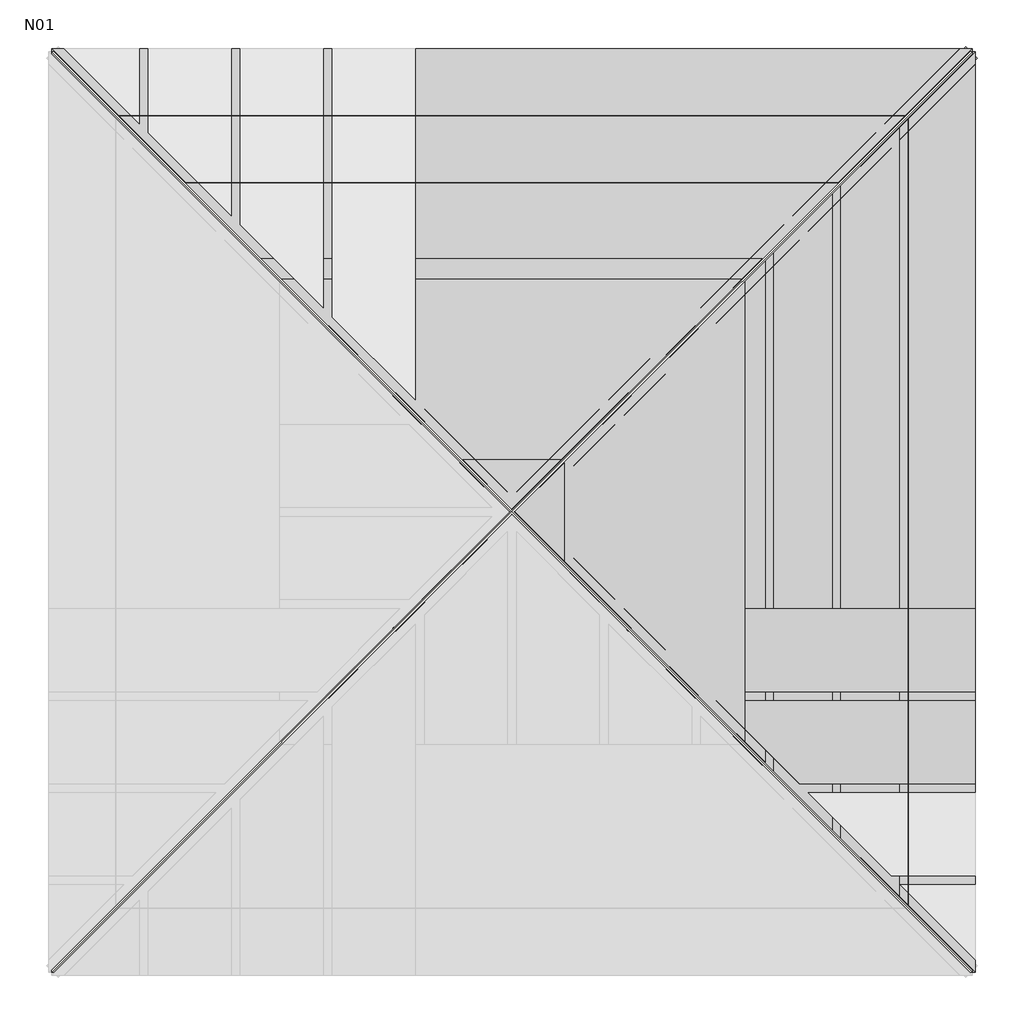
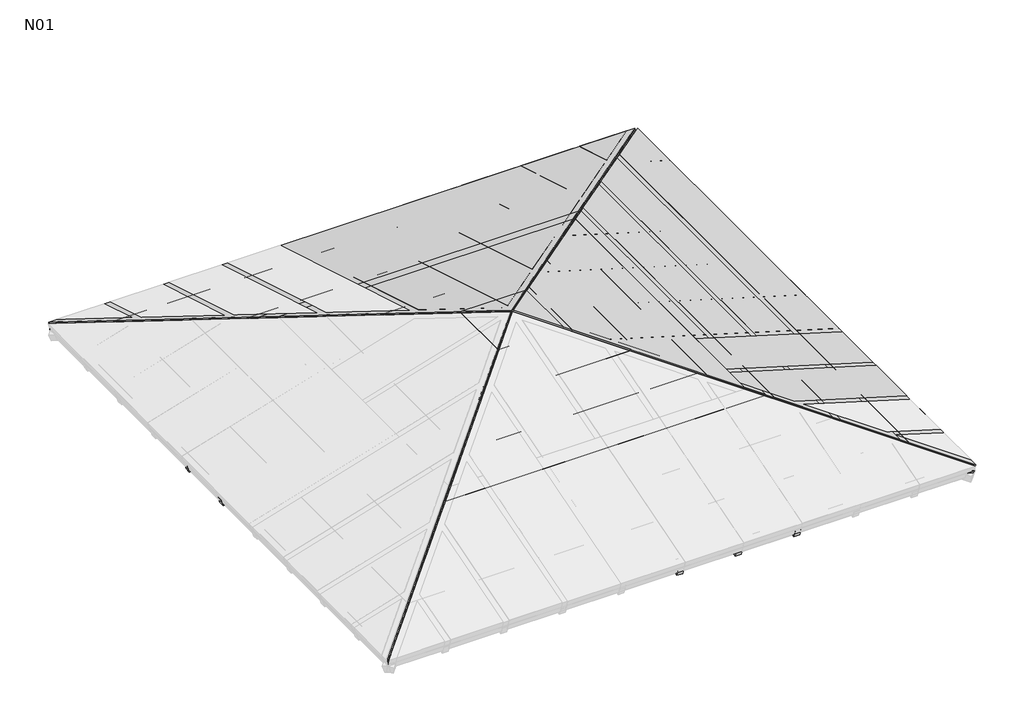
# One storey, part 2 of 2: 52 members, 38 plates, 1 roof.
"""IFC4 building model written with IfcOpenShell, lengths in millimetres."""

from ifc_helpers import new_model, si_unit, origin, place, context, project, spatial, faceted_brep, transform, mapped, element, save
from components import rectangular_mullion_2x5_cm_e4b01166, rectangular_mullion_2x5_cm_c243ac4e, rectangular_mullion_2x5_cm_e88f7a66, rectangular_mullion_2x5_cm_7033cc24, rectangular_mullion_2x5_cm_fc4e4f32, rectangular_mullion_2x5_cm_76aa6b56, rectangular_mullion_2x5_cm_8f59c52d, rectangular_mullion_6x12_cm_d0224d13, rectangular_mullion_6x5_cm_fcdd8aea, rectangular_mullion_6x5_cm_35c0ddda, rectangular_mullion_6x5_cm_7994da54, rectangular_mullion_6x5_cm_523ccd75, rectangular_mullion_6x5_cm_38436df2, rectangular_mullion_6x5_cm_68429f73, rectangular_mullion_6x5_cm_cfa57f92, rectangular_mullion_6x5_cm_42f8e326, rectangular_mullion_6x5_cm_ff4e2c6f, rectangular_mullion_6x5_cm_2a4f21b8, rectangular_mullion_6x5_cm_8417e023, rectangular_mullion_6x5_cm_048b1182, rectangular_mullion_6x5_cm_d8a74bb4, empty_system_panel_empty_65b771b1, empty_system_panel_empty_b0d35594, empty_system_panel_empty_8b1a6939, empty_system_panel_empty_328e3ff9, empty_system_panel_empty_d3f17187, empty_system_panel_empty_ec251fb9, empty_system_panel_empty_eb190688, empty_system_panel_empty_1f9a8fa0, empty_system_panel_empty_c79e2d26, empty_system_panel_empty_f5961f3d, empty_system_panel_empty_43ef93b5, empty_system_panel_empty_011029aa, empty_system_panel_empty_e1ce71c8, empty_system_panel_empty_26c64da4, empty_system_panel_empty_65730d84, empty_system_panel_empty_01459a41, empty_system_panel_empty_852c3224, empty_system_panel_empty_f13930bf, empty_system_panel_empty_531248cf

model = new_model("IFC4")

# Units and contexts
model_context = context("Model", 3, world=origin())
ifc_project = project(units=[si_unit("LENGTHUNIT", "METRE", prefix="MILLI")], contexts=[model_context])

# Site, building, storey
site = spatial("IfcSite", under=ifc_project)
building = spatial("IfcBuilding", under=site)
storey = spatial("IfcBuildingStorey", under=building, Name="N01", Elevation=3000.0)

# Members
placement = place(None, origin())
rectangular_mullion_2x5_cm_shape = rectangular_mullion_2x5_cm_e4b01166(model_context)
element("IfcMember", 1, ObjectType="Rectangular Mullion : 2x5 cm", at=placement, inside=storey, context=model_context, shape_type="MappedRepresentation", body=[
    mapped(rectangular_mullion_2x5_cm_shape, transform((7159.310987, 3941.0614525, 3000.0), x_axis=(0.9578262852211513, 0.0, -0.2873478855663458), y_axis=(-0.2873478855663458, 0.0, -0.9578262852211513), z_axis=(0.0, 1.0, 0.0))),
])
rectangular_mullion_2x5_cm_2_shape = rectangular_mullion_2x5_cm_c243ac4e(model_context)
element("IfcMember", 2, ObjectType="Rectangular Mullion : 2x5 cm", at=placement, inside=storey, context=model_context, shape_type="MappedRepresentation", body=[
    mapped(rectangular_mullion_2x5_cm_2_shape, transform((6795.3369986, 3577.0874641, 3109.1921965), x_axis=(0.0, -0.9578262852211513, 0.2873478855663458), y_axis=(0.0, -0.2873478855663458, -0.9578262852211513), z_axis=(1.0, 0.0, 0.0))),
])
rectangular_mullion_2x5_cm_3_shape = rectangular_mullion_2x5_cm_e88f7a66(model_context)
element("IfcMember", 3, ObjectType="Rectangular Mullion : 2x5 cm", at=placement, inside=storey, context=model_context, shape_type="MappedRepresentation", body=[
    mapped(rectangular_mullion_2x5_cm_3_shape, transform((6431.3630102, 3213.1134757, 3218.384393), x_axis=(0.0, -0.9578262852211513, 0.2873478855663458), y_axis=(0.0, -0.2873478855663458, -0.9578262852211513), z_axis=(1.0, 0.0, 0.0))),
])
rectangular_mullion_2x5_cm_4_shape = rectangular_mullion_2x5_cm_7033cc24(model_context)
element("IfcMember", 4, ObjectType="Rectangular Mullion : 2x5 cm", at=placement, inside=storey, context=model_context, shape_type="MappedRepresentation", body=[
    mapped(rectangular_mullion_2x5_cm_4_shape, transform((6067.3890218, 32.9834177, 3327.5765895), x_axis=(-0.9578262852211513, 0.0, 0.2873478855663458), y_axis=(-0.2873478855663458, 0.0, -0.9578262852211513), z_axis=(0.0, -1.0, 0.0))),
])
element("IfcMember", 5, ObjectType="Rectangular Mullion : 2x5 cm", at=placement, inside=storey, context=model_context, shape_type="MappedRepresentation", body=[
    mapped(rectangular_mullion_2x5_cm_4_shape, transform((6067.3890218, 2849.1394874, 3327.5765895), x_axis=(0.0, -0.9578262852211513, 0.2873478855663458), y_axis=(0.0, -0.2873478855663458, -0.9578262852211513), z_axis=(1.0, 0.0, 0.0))),
])
rectangular_mullion_2x5_cm_5_shape = rectangular_mullion_2x5_cm_fc4e4f32(model_context)
element("IfcMember", 6, ObjectType="Rectangular Mullion : 2x5 cm", at=placement, inside=storey, context=model_context, shape_type="MappedRepresentation", body=[
    mapped(rectangular_mullion_2x5_cm_5_shape, transform((5703.4150334, 396.9574061, 3436.7687861), x_axis=(-0.9578262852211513, 0.0, 0.2873478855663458), y_axis=(-0.2873478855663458, 0.0, -0.9578262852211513), z_axis=(0.0, -1.0, 0.0))),
])
element("IfcMember", 7, ObjectType="Rectangular Mullion : 2x5 cm", at=placement, inside=storey, context=model_context, shape_type="MappedRepresentation", body=[
    mapped(rectangular_mullion_2x5_cm_5_shape, transform((5703.4150334, 2485.165499, 3436.7687861), x_axis=(0.0, -0.9578262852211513, 0.2873478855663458), y_axis=(0.0, -0.2873478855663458, -0.9578262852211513), z_axis=(1.0, 0.0, 0.0))),
])
rectangular_mullion_2x5_cm_6_shape = rectangular_mullion_2x5_cm_76aa6b56(model_context)
element("IfcMember", 8, ObjectType="Rectangular Mullion : 2x5 cm", at=placement, inside=storey, context=model_context, shape_type="MappedRepresentation", body=[
    mapped(rectangular_mullion_2x5_cm_6_shape, transform((5339.441045, 760.9313944, 3545.9609826), x_axis=(-0.9578262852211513, 0.0, 0.2873478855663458), y_axis=(-0.2873478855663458, 0.0, -0.9578262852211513), z_axis=(0.0, -1.0, 0.0))),
])
element("IfcMember", 9, ObjectType="Rectangular Mullion : 2x5 cm", at=placement, inside=storey, context=model_context, shape_type="MappedRepresentation", body=[
    mapped(rectangular_mullion_2x5_cm_6_shape, transform((5339.441045, 2121.1915106, 3545.9609826), x_axis=(0.0, -0.9578262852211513, 0.2873478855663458), y_axis=(0.0, -0.2873478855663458, -0.9578262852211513), z_axis=(1.0, 0.0, 0.0))),
])
rectangular_mullion_2x5_cm_7_shape = rectangular_mullion_2x5_cm_8f59c52d(model_context)
element("IfcMember", 10, ObjectType="Rectangular Mullion : 2x5 cm", at=placement, inside=storey, context=model_context, shape_type="MappedRepresentation", body=[
    mapped(rectangular_mullion_2x5_cm_7_shape, transform((4975.4670567, 1124.9053828, 3655.1531791), x_axis=(-0.9578262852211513, 0.0, 0.2873478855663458), y_axis=(-0.2873478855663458, 0.0, -0.9578262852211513), z_axis=(0.0, -1.0, 0.0))),
])
element("IfcMember", 11, ObjectType="Rectangular Mullion : 2x5 cm", at=placement, inside=storey, context=model_context, shape_type="MappedRepresentation", body=[
    mapped(rectangular_mullion_2x5_cm_7_shape, transform((4343.1549173, 1124.9053828, 3655.1531791), x_axis=(0.0, 0.9578262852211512, 0.287347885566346), y_axis=(0.0, 0.287347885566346, -0.9578262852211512), z_axis=(-1.0, 0.0, 0.0))),
])
element("IfcMember", 12, ObjectType="Rectangular Mullion : 2x5 cm", at=placement, inside=storey, context=model_context, shape_type="MappedRepresentation", body=[
    mapped(rectangular_mullion_2x5_cm_7_shape, transform((4343.1549173, 1757.2175222, 3655.1531791), x_axis=(0.9578262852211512, 0.0, 0.287347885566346), y_axis=(0.287347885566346, 0.0, -0.9578262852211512), z_axis=(0.0, 1.0, 0.0))),
])
element("IfcMember", 13, ObjectType="Rectangular Mullion : 2x5 cm", at=placement, inside=storey, context=model_context, shape_type="MappedRepresentation", body=[
    mapped(rectangular_mullion_2x5_cm_7_shape, transform((4975.4670567, 1757.2175222, 3655.1531791), x_axis=(0.0, -0.9578262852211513, 0.2873478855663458), y_axis=(0.0, -0.2873478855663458, -0.9578262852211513), z_axis=(1.0, 0.0, 0.0))),
])
rectangular_mullion_6x12_cm_shape = rectangular_mullion_6x12_cm_d0224d13(model_context)
element("IfcMember", 14, ObjectType="Rectangular Mullion : 6x12 cm", at=placement, inside=storey, context=model_context, shape_type="MappedRepresentation", body=[
    mapped(rectangular_mullion_6x12_cm_shape, transform((5909.310987, 191.0614525, 3375.0), x_axis=(-0.9578262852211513, 0.0, 0.2873478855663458), y_axis=(-0.2873478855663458, 0.0, -0.9578262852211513), z_axis=(0.0, -1.0, 0.0))),
])
element("IfcMember", 15, ObjectType="Rectangular Mullion : 6x12 cm", at=placement, inside=storey, context=model_context, shape_type="MappedRepresentation", body=[
    mapped(rectangular_mullion_6x12_cm_shape, transform((5909.310987, 2691.0614525, 3375.0), x_axis=(0.0, -0.9578262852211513, 0.2873478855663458), y_axis=(0.0, -0.2873478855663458, -0.9578262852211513), z_axis=(1.0, 0.0, 0.0))),
])
rectangular_mullion_6x5_cm_shape = rectangular_mullion_6x5_cm_fcdd8aea(model_context)
element("IfcMember", 16, ObjectType="Rectangular Mullion : 6x5 cm", at=placement, inside=storey, context=model_context, shape_type="MappedRepresentation", body=[
    mapped(rectangular_mullion_6x5_cm_shape, transform((6659.3109867, 3441.0614523, 3150.0000001), x_axis=(-1.0, 0.0, 0.0), y_axis=(0.0, -0.287347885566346, -0.9578262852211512), z_axis=(0.0, -0.9578262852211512, 0.287347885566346))),
])
rectangular_mullion_6x5_cm_2_shape = rectangular_mullion_6x5_cm_35c0ddda(model_context)
element("IfcMember", 17, ObjectType="Rectangular Mullion : 6x5 cm", at=placement, inside=storey, context=model_context, shape_type="MappedRepresentation", body=[
    mapped(rectangular_mullion_6x5_cm_2_shape, transform((6159.3109868, 2941.0614523, 3300.0000001), x_axis=(-1.0, 0.0, 0.0), y_axis=(0.0, -0.2873478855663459, -0.9578262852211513), z_axis=(0.0, -0.9578262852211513, 0.2873478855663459))),
])
rectangular_mullion_6x5_cm_3_shape = rectangular_mullion_6x5_cm_7994da54(model_context)
element("IfcMember", 18, ObjectType="Rectangular Mullion : 6x5 cm", at=placement, inside=storey, context=model_context, shape_type="MappedRepresentation", body=[
    mapped(rectangular_mullion_6x5_cm_3_shape, transform((5659.3109868, 441.0614526, 3450.0), x_axis=(0.0, 1.0, 0.0), y_axis=(-0.2873478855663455, 0.0, -0.9578262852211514), z_axis=(-0.9578262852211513, 0.0, 0.28734788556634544))),
])
element("IfcMember", 19, ObjectType="Rectangular Mullion : 6x5 cm", at=placement, inside=storey, context=model_context, shape_type="MappedRepresentation", body=[
    mapped(rectangular_mullion_6x5_cm_3_shape, transform((5659.3109868, 2441.0614524, 3450.0), x_axis=(-1.0, 0.0, 0.0), y_axis=(0.0, -0.2873478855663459, -0.9578262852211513), z_axis=(0.0, -0.9578262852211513, 0.2873478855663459))),
])
rectangular_mullion_6x5_cm_4_shape = rectangular_mullion_6x5_cm_523ccd75(model_context)
element("IfcMember", 20, ObjectType="Rectangular Mullion : 6x5 cm", at=placement, inside=storey, context=model_context, shape_type="MappedRepresentation", body=[
    mapped(rectangular_mullion_6x5_cm_4_shape, transform((5159.3109869, 941.0614526, 3600.0), x_axis=(0.0, 1.0, 0.0), y_axis=(-0.2873478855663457, 0.0, -0.9578262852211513), z_axis=(-0.9578262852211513, 0.0, 0.2873478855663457))),
])
element("IfcMember", 21, ObjectType="Rectangular Mullion : 6x5 cm", at=placement, inside=storey, context=model_context, shape_type="MappedRepresentation", body=[
    mapped(rectangular_mullion_6x5_cm_4_shape, transform((4159.310987, 1941.0614525, 3600.0), x_axis=(0.0, -1.0, 0.0), y_axis=(0.287347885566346, 0.0, -0.9578262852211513), z_axis=(0.9578262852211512, 0.0, 0.28734788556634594))),
])
element("IfcMember", 22, ObjectType="Rectangular Mullion : 6x5 cm", at=placement, inside=storey, context=model_context, shape_type="MappedRepresentation", body=[
    mapped(rectangular_mullion_6x5_cm_4_shape, transform((5159.3109869, 1941.0614525, 3600.0), x_axis=(-1.0, 0.0, 0.0), y_axis=(0.0, -0.28734788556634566, -0.9578262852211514), z_axis=(0.0, -0.9578262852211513, 0.2873478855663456))),
])
rectangular_mullion_6x5_cm_5_shape = rectangular_mullion_6x5_cm_38436df2(model_context)
element("IfcMember", 23, ObjectType="Rectangular Mullion : 6x5 cm", at=placement, inside=storey, context=model_context, shape_type="MappedRepresentation", body=[
    mapped(rectangular_mullion_6x5_cm_5_shape, transform((4659.310987, 1441.0614525, 3750.0), x_axis=(0.0, 1.0, 0.0), y_axis=(-0.2873478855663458, 0.0, -0.9578262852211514), z_axis=(-0.9578262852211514, 0.0, 0.2873478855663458))),
])
element("IfcMember", 24, ObjectType="Rectangular Mullion : 6x5 cm", at=placement, inside=storey, context=model_context, shape_type="MappedRepresentation", body=[
    mapped(rectangular_mullion_6x5_cm_5_shape, transform((4659.310987, 1441.0614525, 3750.0), x_axis=(0.0, -1.0, 0.0), y_axis=(0.287347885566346, 0.0, -0.9578262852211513), z_axis=(0.9578262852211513, 0.0, 0.287347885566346))),
])
element("IfcMember", 25, ObjectType="Rectangular Mullion : 6x5 cm", at=placement, inside=storey, context=model_context, shape_type="MappedRepresentation", body=[
    mapped(rectangular_mullion_6x5_cm_5_shape, transform((4659.310987, 1441.0614525, 3750.0), x_axis=(-1.0, 0.0, 0.0), y_axis=(0.0, -0.28734788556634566, -0.9578262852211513), z_axis=(0.0, -0.9578262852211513, 0.28734788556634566))),
])
rectangular_mullion_6x5_cm_6_shape = rectangular_mullion_6x5_cm_68429f73(model_context)
element("IfcMember", 26, ObjectType="Rectangular Mullion : 6x5 cm", at=placement, inside=storey, context=model_context, shape_type="MappedRepresentation", body=[
    mapped(rectangular_mullion_6x5_cm_6_shape, transform((5159.3109869, 1941.0614525, 3600.0), x_axis=(0.0, 1.0, 0.0), y_axis=(-0.2873478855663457, 0.0, -0.9578262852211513), z_axis=(-0.9578262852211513, 0.0, 0.2873478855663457))),
])
element("IfcMember", 27, ObjectType="Rectangular Mullion : 6x5 cm", at=placement, inside=storey, context=model_context, shape_type="MappedRepresentation", body=[
    mapped(rectangular_mullion_6x5_cm_6_shape, transform((5159.3109869, 941.0614526, 3600.0), x_axis=(1.0, 0.0, 0.0), y_axis=(0.0, 0.28734788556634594, -0.9578262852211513), z_axis=(0.0, 0.9578262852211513, 0.28734788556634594))),
])
element("IfcMember", 28, ObjectType="Rectangular Mullion : 6x5 cm", at=placement, inside=storey, context=model_context, shape_type="MappedRepresentation", body=[
    mapped(rectangular_mullion_6x5_cm_6_shape, transform((4159.310987, 1941.0614525, 3600.0), x_axis=(-1.0, 0.0, 0.0), y_axis=(0.0, -0.2873478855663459, -0.9578262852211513), z_axis=(0.0, -0.9578262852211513, 0.2873478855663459))),
])
rectangular_mullion_6x5_cm_7_shape = rectangular_mullion_6x5_cm_cfa57f92(model_context)
element("IfcMember", 29, ObjectType="Rectangular Mullion : 6x5 cm", at=placement, inside=storey, context=model_context, shape_type="MappedRepresentation", body=[
    mapped(rectangular_mullion_6x5_cm_7_shape, transform((5659.3109868, 2441.0614524, 3450.0), x_axis=(0.0, 1.0, 0.0), y_axis=(-0.2873478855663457, 0.0, -0.9578262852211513), z_axis=(-0.9578262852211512, 0.0, 0.28734788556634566))),
])
element("IfcMember", 30, ObjectType="Rectangular Mullion : 6x5 cm", at=placement, inside=storey, context=model_context, shape_type="MappedRepresentation", body=[
    mapped(rectangular_mullion_6x5_cm_7_shape, transform((5659.3109868, 441.0614526, 3450.0), x_axis=(1.0, 0.0, 0.0), y_axis=(0.0, 0.28734788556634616, -0.9578262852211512), z_axis=(0.0, 0.9578262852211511, 0.2873478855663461))),
])
rectangular_mullion_6x5_cm_8_shape = rectangular_mullion_6x5_cm_42f8e326(model_context)
element("IfcMember", 31, ObjectType="Rectangular Mullion : 6x5 cm", at=placement, inside=storey, context=model_context, shape_type="MappedRepresentation", body=[
    mapped(rectangular_mullion_6x5_cm_8_shape, transform((6159.3109868, 2941.0614523, 3300.0000001), x_axis=(0.0, 1.0, 0.0), y_axis=(-0.28734788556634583, 0.0, -0.9578262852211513), z_axis=(-0.9578262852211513, 0.0, 0.28734788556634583))),
])
rectangular_mullion_6x5_cm_9_shape = rectangular_mullion_6x5_cm_ff4e2c6f(model_context)
element("IfcMember", 32, ObjectType="Rectangular Mullion : 6x5 cm", at=placement, inside=storey, context=model_context, shape_type="MappedRepresentation", body=[
    mapped(rectangular_mullion_6x5_cm_9_shape, transform((6659.3109867, 3441.0614523, 3150.0000001), x_axis=(0.0, 1.0, 0.0), y_axis=(-0.28734788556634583, 0.0, -0.9578262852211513), z_axis=(-0.9578262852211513, 0.0, 0.28734788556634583))),
])
element("IfcMember", 33, ObjectType="Rectangular Mullion : 6x5 cm", at=placement, inside=storey, context=model_context, shape_type="MappedRepresentation", body=[
    mapped(rectangular_mullion_6x5_cm_5_shape, transform((4659.310987, 1441.0614525, 3750.0), x_axis=(1.0, 0.0, 0.0), y_axis=(0.0, 0.28734788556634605, -0.9578262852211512), z_axis=(0.0, 0.9578262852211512, 0.28734788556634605))),
])
rectangular_mullion_6x5_cm_10_shape = rectangular_mullion_6x5_cm_2a4f21b8(model_context)
element("IfcMember", 34, ObjectType="Rectangular Mullion : 6x5 cm", at=placement, inside=storey, context=model_context, shape_type="MappedRepresentation", body=[
    mapped(rectangular_mullion_6x5_cm_10_shape, transform((7159.310987, 3941.0614525, 3000.0), x_axis=(0.7221711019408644, -0.6625422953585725, 0.19876268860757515), y_axis=(0.0, -0.28734788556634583, -0.9578262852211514), z_axis=(0.6917144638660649, 0.6917144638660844, -0.20751433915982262))),
])
rectangular_mullion_6x5_cm_11_shape = rectangular_mullion_6x5_cm_8417e023(model_context)
element("IfcMember", 35, ObjectType="Rectangular Mullion : 6x5 cm", at=placement, inside=storey, context=model_context, shape_type="MappedRepresentation", body=[
    mapped(rectangular_mullion_6x5_cm_11_shape, transform((4659.310987, 1441.0614525, 3750.0), x_axis=(-0.6625422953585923, 0.7221711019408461, 0.19876268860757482), y_axis=(-0.2873478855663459, 0.0, -0.9578262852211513), z_axis=(-0.6917144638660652, -0.6917144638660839, 0.207514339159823))),
])
element("IfcMember", 36, ObjectType="Rectangular Mullion : 6x5 cm", at=placement, inside=storey, context=model_context, shape_type="MappedRepresentation", body=[
    mapped(rectangular_mullion_6x5_cm_11_shape, transform((4659.310987, 1441.0614525, 3750.0), x_axis=(0.6625422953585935, -0.7221711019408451, 0.19876268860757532), y_axis=(0.28734788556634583, 0.0, -0.9578262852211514), z_axis=(0.6917144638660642, 0.6917144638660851, 0.2075143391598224))),
])
element("IfcMember", 37, ObjectType="Rectangular Mullion : 6x5 cm", at=placement, inside=storey, context=model_context, shape_type="MappedRepresentation", body=[
    mapped(rectangular_mullion_6x5_cm_11_shape, transform((4659.310987, 1441.0614525, 3750.0), x_axis=(-0.7221711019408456, -0.662542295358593, 0.19876268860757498), y_axis=(0.0, -0.2873478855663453, -0.9578262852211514), z_axis=(0.6917144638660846, -0.6917144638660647, 0.20751433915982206))),
])
element("IfcMember", 38, ObjectType="Rectangular Mullion : 6x5 cm", at=placement, inside=storey, context=model_context, shape_type="MappedRepresentation", body=[
    mapped(rectangular_mullion_6x5_cm_11_shape, transform((4659.310987, 1441.0614525, 3750.0), x_axis=(0.7221711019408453, 0.6625422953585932, 0.19876268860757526), y_axis=(0.0, 0.2873478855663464, -0.9578262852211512), z_axis=(-0.6917144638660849, 0.6917144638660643, 0.20751433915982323))),
])
rectangular_mullion_6x5_cm_12_shape = rectangular_mullion_6x5_cm_048b1182(model_context)
element("IfcMember", 39, ObjectType="Rectangular Mullion : 6x5 cm", at=placement, inside=storey, context=model_context, shape_type="MappedRepresentation", body=[
    mapped(rectangular_mullion_6x5_cm_12_shape, transform((6659.3109867, 3441.0614523, 3150.0000001), x_axis=(0.7221711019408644, -0.6625422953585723, 0.19876268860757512), y_axis=(0.0, -0.28734788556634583, -0.9578262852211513), z_axis=(0.6917144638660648, 0.6917144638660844, -0.2075143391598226))),
])
element("IfcMember", 40, ObjectType="Rectangular Mullion : 6x5 cm", at=placement, inside=storey, context=model_context, shape_type="MappedRepresentation", body=[
    mapped(rectangular_mullion_6x5_cm_12_shape, transform((6159.3109868, 2941.0614523, 3300.0000001), x_axis=(0.7221711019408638, -0.6625422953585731, 0.19876268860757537), y_axis=(0.0, -0.28734788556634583, -0.9578262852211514), z_axis=(0.6917144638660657, 0.6917144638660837, -0.2075143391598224))),
])
element("IfcMember", 41, ObjectType="Rectangular Mullion : 6x5 cm", at=placement, inside=storey, context=model_context, shape_type="MappedRepresentation", body=[
    mapped(rectangular_mullion_6x5_cm_12_shape, transform((5659.3109868, 2441.0614524, 3450.0), x_axis=(0.7221711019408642, -0.6625422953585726, 0.1987626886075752), y_axis=(0.0, -0.28734788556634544, -0.9578262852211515), z_axis=(0.6917144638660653, 0.6917144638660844, -0.20751433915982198))),
])
element("IfcMember", 42, ObjectType="Rectangular Mullion : 6x5 cm", at=placement, inside=storey, context=model_context, shape_type="MappedRepresentation", body=[
    mapped(rectangular_mullion_6x5_cm_12_shape, transform((4159.310987, 1941.0614525, 3600.0), x_axis=(-0.7221711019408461, -0.6625422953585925, 0.19876268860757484), y_axis=(0.0, -0.287347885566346, -0.9578262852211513), z_axis=(0.691714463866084, -0.6917144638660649, 0.20751433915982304))),
])
element("IfcMember", 43, ObjectType="Rectangular Mullion : 6x5 cm", at=placement, inside=storey, context=model_context, shape_type="MappedRepresentation", body=[
    mapped(rectangular_mullion_6x5_cm_12_shape, transform((5659.3109868, 441.0614526, 3450.0), x_axis=(-0.6625422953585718, -0.7221711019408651, 0.19876268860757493), y_axis=(-0.287347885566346, 0.0, -0.9578262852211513), z_axis=(0.6917144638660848, -0.6917144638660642, -0.20751433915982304))),
])
element("IfcMember", 44, ObjectType="Rectangular Mullion : 6x5 cm", at=placement, inside=storey, context=model_context, shape_type="MappedRepresentation", body=[
    mapped(rectangular_mullion_6x5_cm_12_shape, transform((5159.3109869, 1941.0614525, 3600.0), x_axis=(-0.6625422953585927, 0.7221711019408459, 0.1987626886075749), y_axis=(-0.2873478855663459, 0.0, -0.9578262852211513), z_axis=(-0.6917144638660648, -0.6917144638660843, 0.2075143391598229))),
])
element("IfcMember", 45, ObjectType="Rectangular Mullion : 6x5 cm", at=placement, inside=storey, context=model_context, shape_type="MappedRepresentation", body=[
    mapped(rectangular_mullion_6x5_cm_12_shape, transform((5659.3109868, 2441.0614524, 3450.0), x_axis=(-0.6625422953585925, 0.7221711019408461, 0.19876268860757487), y_axis=(-0.2873478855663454, 0.0, -0.9578262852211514), z_axis=(-0.6917144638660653, -0.691714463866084, 0.2075143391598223))),
])
element("IfcMember", 46, ObjectType="Rectangular Mullion : 6x5 cm", at=placement, inside=storey, context=model_context, shape_type="MappedRepresentation", body=[
    mapped(rectangular_mullion_6x5_cm_12_shape, transform((6159.3109868, 2941.0614523, 3300.0000001), x_axis=(-0.6625422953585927, 0.7221711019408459, 0.1987626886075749), y_axis=(-0.2873478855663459, 0.0, -0.9578262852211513), z_axis=(-0.6917144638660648, -0.6917144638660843, 0.2075143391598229))),
])
element("IfcMember", 47, ObjectType="Rectangular Mullion : 6x5 cm", at=placement, inside=storey, context=model_context, shape_type="MappedRepresentation", body=[
    mapped(rectangular_mullion_6x5_cm_12_shape, transform((5159.3109869, 941.0614526, 3600.0), x_axis=(0.7221711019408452, 0.6625422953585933, 0.1987626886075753), y_axis=(0.0, 0.2873478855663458, -0.9578262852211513), z_axis=(-0.6917144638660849, 0.6917144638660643, 0.20751433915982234))),
])
element("IfcMember", 48, ObjectType="Rectangular Mullion : 6x5 cm", at=placement, inside=storey, context=model_context, shape_type="MappedRepresentation", body=[
    mapped(rectangular_mullion_6x5_cm_12_shape, transform((5659.3109868, 441.0614526, 3450.0), x_axis=(0.7221711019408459, 0.6625422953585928, 0.19876268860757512), y_axis=(0.0, 0.2873478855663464, -0.9578262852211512), z_axis=(-0.6917144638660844, 0.6917144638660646, 0.20751433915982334))),
])
rectangular_mullion_6x5_cm_13_shape = rectangular_mullion_6x5_cm_d8a74bb4(model_context)
element("IfcMember", 49, ObjectType="Rectangular Mullion : 6x5 cm", at=placement, inside=storey, context=model_context, shape_type="MappedRepresentation", body=[
    mapped(rectangular_mullion_6x5_cm_13_shape, transform((5159.3109869, 1941.0614525, 3600.0), x_axis=(0.7221711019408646, -0.6625422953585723, 0.19876268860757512), y_axis=(0.0, -0.2873478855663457, -0.9578262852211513), z_axis=(0.6917144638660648, 0.6917144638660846, -0.2075143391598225))),
])
element("IfcMember", 50, ObjectType="Rectangular Mullion : 6x5 cm", at=placement, inside=storey, context=model_context, shape_type="MappedRepresentation", body=[
    mapped(rectangular_mullion_6x5_cm_13_shape, transform((5159.3109869, 941.0614526, 3600.0), x_axis=(-0.6625422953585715, -0.7221711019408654, 0.19876268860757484), y_axis=(-0.2873478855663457, 0.0, -0.9578262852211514), z_axis=(0.6917144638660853, -0.6917144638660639, -0.20751433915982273))),
])
element("IfcMember", 51, ObjectType="Rectangular Mullion : 6x5 cm", at=placement, inside=storey, context=model_context, shape_type="MappedRepresentation", body=[
    mapped(rectangular_mullion_6x5_cm_13_shape, transform((4159.310987, 1941.0614525, 3600.0), x_axis=(0.6625422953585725, 0.7221711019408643, 0.19876268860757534), y_axis=(0.287347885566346, 0.0, -0.9578262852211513), z_axis=(-0.6917144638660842, 0.691714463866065, -0.20751433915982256))),
])
element("IfcMember", 52, ObjectType="Rectangular Mullion : 6x5 cm", at=placement, inside=storey, context=model_context, shape_type="MappedRepresentation", body=[
    mapped(rectangular_mullion_6x5_cm_10_shape, transform((6659.3109867, 3441.0614523, 3150.0000001), x_axis=(-0.6625422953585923, 0.7221711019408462, 0.19876268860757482), y_axis=(-0.2873478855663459, 0.0, -0.9578262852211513), z_axis=(-0.6917144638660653, -0.6917144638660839, 0.207514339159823))),
])

# Plates
empty_system_panel_empty_shape = empty_system_panel_empty_65b771b1(model_context)
element("IfcPlate", 53, ObjectType="Empty System Panel : Empty", at=placement, inside=storey, context=model_context, shape_type="MappedRepresentation", body=[
    mapped(empty_system_panel_empty_shape, transform((4659.310987, 3941.0614525, 3000.0), x_axis=(-1.0, 0.0, 0.0), y_axis=(0.0, -0.2873478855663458, -0.9578262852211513), z_axis=(0.0, -0.9578262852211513, 0.2873478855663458))),
])
element("IfcPlate", 54, ObjectType="Empty System Panel : Empty", at=placement, inside=storey, context=model_context, shape_type="MappedRepresentation", body=[
    mapped(empty_system_panel_empty_shape, transform((7159.310987, 1441.0614525, 3000.0), x_axis=(0.0, 1.0, 0.0), y_axis=(-0.2873478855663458, 0.0, -0.9578262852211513), z_axis=(-0.9578262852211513, 0.0, 0.2873478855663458))),
])
empty_system_panel_empty_2_shape = empty_system_panel_empty_b0d35594(model_context)
element("IfcPlate", 55, ObjectType="Empty System Panel : Empty", at=placement, inside=storey, context=model_context, shape_type="MappedRepresentation", body=[
    mapped(empty_system_panel_empty_2_shape, transform((4659.310987, 2691.0614525, 3375.0), x_axis=(-1.0, 0.0, 0.0), y_axis=(0.0, -0.2873478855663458, -0.9578262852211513), z_axis=(0.0, -0.9578262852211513, 0.2873478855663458))),
])
element("IfcPlate", 56, ObjectType="Empty System Panel : Empty", at=placement, inside=storey, context=model_context, shape_type="MappedRepresentation", body=[
    mapped(empty_system_panel_empty_2_shape, transform((5909.310987, 1441.0614525, 3375.0), x_axis=(0.0, 1.0, 0.0), y_axis=(-0.2873478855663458, 0.0, -0.9578262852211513), z_axis=(-0.9578262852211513, 0.0, 0.2873478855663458))),
])
empty_system_panel_empty_3_shape = empty_system_panel_empty_8b1a6939(model_context)
element("IfcPlate", 57, ObjectType="Empty System Panel : Empty", at=placement, inside=storey, context=model_context, shape_type="MappedRepresentation", body=[
    mapped(empty_system_panel_empty_3_shape, transform((6887.1931519, 3941.0614525, 3000.0), x_axis=(-1.0, 0.0, 0.0), y_axis=(0.0, -0.2873478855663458, -0.9578262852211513), z_axis=(0.0, -0.9578262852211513, 0.2873478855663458))),
])
empty_system_panel_empty_4_shape = empty_system_panel_empty_328e3ff9(model_context)
element("IfcPlate", 58, ObjectType="Empty System Panel : Empty", at=placement, inside=storey, context=model_context, shape_type="MappedRepresentation", body=[
    mapped(empty_system_panel_empty_4_shape, transform((6409.3109868, 3941.0614525, 3000.0), x_axis=(-1.0, 0.0, 0.0), y_axis=(0.0, -0.2873478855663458, -0.9578262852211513), z_axis=(0.0, -0.9578262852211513, 0.2873478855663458))),
])
empty_system_panel_empty_5_shape = empty_system_panel_empty_d3f17187(model_context)
element("IfcPlate", 59, ObjectType="Empty System Panel : Empty", at=placement, inside=storey, context=model_context, shape_type="MappedRepresentation", body=[
    mapped(empty_system_panel_empty_5_shape, transform((5909.3109868, 3941.0614525, 3000.0), x_axis=(-1.0, 0.0, 0.0), y_axis=(0.0, -0.2873478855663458, -0.9578262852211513), z_axis=(0.0, -0.9578262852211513, 0.2873478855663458))),
])
element("IfcPlate", 60, ObjectType="Empty System Panel : Empty", at=placement, inside=storey, context=model_context, shape_type="MappedRepresentation", body=[
    mapped(empty_system_panel_empty_5_shape, transform((7159.310987, 191.0614527, 3000.0), x_axis=(0.0, 1.0, 0.0), y_axis=(-0.2873478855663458, 0.0, -0.9578262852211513), z_axis=(-0.9578262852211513, 0.0, 0.2873478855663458))),
])
empty_system_panel_empty_6_shape = empty_system_panel_empty_ec251fb9(model_context)
element("IfcPlate", 61, ObjectType="Empty System Panel : Empty", at=placement, inside=storey, context=model_context, shape_type="MappedRepresentation", body=[
    mapped(empty_system_panel_empty_6_shape, transform((5409.3109869, 3941.0614525, 3000.0), x_axis=(-1.0, 0.0, 0.0), y_axis=(0.0, -0.2873478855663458, -0.9578262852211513), z_axis=(0.0, -0.9578262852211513, 0.2873478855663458))),
])
element("IfcPlate", 62, ObjectType="Empty System Panel : Empty", at=placement, inside=storey, context=model_context, shape_type="MappedRepresentation", body=[
    mapped(empty_system_panel_empty_6_shape, transform((7159.310987, 691.0614526, 3000.0), x_axis=(0.0, 1.0, 0.0), y_axis=(-0.2873478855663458, 0.0, -0.9578262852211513), z_axis=(-0.9578262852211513, 0.0, 0.2873478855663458))),
])
empty_system_panel_empty_7_shape = empty_system_panel_empty_eb190688(model_context)
element("IfcPlate", 63, ObjectType="Empty System Panel : Empty", at=placement, inside=storey, context=model_context, shape_type="MappedRepresentation", body=[
    mapped(empty_system_panel_empty_7_shape, transform((4909.3109869, 3941.0614525, 3000.0), x_axis=(-1.0, 0.0, 0.0), y_axis=(0.0, -0.2873478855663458, -0.9578262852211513), z_axis=(0.0, -0.9578262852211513, 0.2873478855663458))),
])
element("IfcPlate", 64, ObjectType="Empty System Panel : Empty", at=placement, inside=storey, context=model_context, shape_type="MappedRepresentation", body=[
    mapped(empty_system_panel_empty_7_shape, transform((7159.310987, 1191.0614525, 3000.0), x_axis=(0.0, 1.0, 0.0), y_axis=(-0.2873478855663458, 0.0, -0.9578262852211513), z_axis=(-0.9578262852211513, 0.0, 0.2873478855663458))),
])
empty_system_panel_empty_8_shape = empty_system_panel_empty_1f9a8fa0(model_context)
element("IfcPlate", 65, ObjectType="Empty System Panel : Empty", at=placement, inside=storey, context=model_context, shape_type="MappedRepresentation", body=[
    mapped(empty_system_panel_empty_8_shape, transform((4409.310987, 3941.0614525, 3000.0), x_axis=(-1.0, 0.0, 0.0), y_axis=(0.0, -0.2873478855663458, -0.9578262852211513), z_axis=(0.0, -0.9578262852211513, 0.2873478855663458))),
])
element("IfcPlate", 66, ObjectType="Empty System Panel : Empty", at=placement, inside=storey, context=model_context, shape_type="MappedRepresentation", body=[
    mapped(empty_system_panel_empty_8_shape, transform((7159.310987, 1691.0614525, 3000.0), x_axis=(0.0, 1.0, 0.0), y_axis=(-0.2873478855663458, 0.0, -0.9578262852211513), z_axis=(-0.9578262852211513, 0.0, 0.2873478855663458))),
])
empty_system_panel_empty_9_shape = empty_system_panel_empty_c79e2d26(model_context)
element("IfcPlate", 67, ObjectType="Empty System Panel : Empty", at=placement, inside=storey, context=model_context, shape_type="MappedRepresentation", body=[
    mapped(empty_system_panel_empty_9_shape, transform((7159.310987, 2191.0614524, 3000.0), x_axis=(0.0, 1.0, 0.0), y_axis=(-0.2873478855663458, 0.0, -0.9578262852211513), z_axis=(-0.9578262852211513, 0.0, 0.2873478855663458))),
])
empty_system_panel_empty_10_shape = empty_system_panel_empty_f5961f3d(model_context)
element("IfcPlate", 68, ObjectType="Empty System Panel : Empty", at=placement, inside=storey, context=model_context, shape_type="MappedRepresentation", body=[
    mapped(empty_system_panel_empty_10_shape, transform((7159.310987, 2691.0614524, 3000.0), x_axis=(0.0, 1.0, 0.0), y_axis=(-0.2873478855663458, 0.0, -0.9578262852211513), z_axis=(-0.9578262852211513, 0.0, 0.2873478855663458))),
])
empty_system_panel_empty_11_shape = empty_system_panel_empty_43ef93b5(model_context)
element("IfcPlate", 69, ObjectType="Empty System Panel : Empty", at=placement, inside=storey, context=model_context, shape_type="MappedRepresentation", body=[
    mapped(empty_system_panel_empty_11_shape, transform((7159.310987, 3191.0614523, 3000.0), x_axis=(0.0, 1.0, 0.0), y_axis=(-0.2873478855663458, 0.0, -0.9578262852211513), z_axis=(-0.9578262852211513, 0.0, 0.2873478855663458))),
])
empty_system_panel_empty_12_shape = empty_system_panel_empty_011029aa(model_context)
element("IfcPlate", 70, ObjectType="Empty System Panel : Empty", at=placement, inside=storey, context=model_context, shape_type="MappedRepresentation", body=[
    mapped(empty_system_panel_empty_12_shape, transform((7159.310987, 3668.9436175, 3000.0), x_axis=(0.0, 1.0, 0.0), y_axis=(-0.2873478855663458, 0.0, -0.9578262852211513), z_axis=(-0.9578262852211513, 0.0, 0.2873478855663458))),
])
empty_system_panel_empty_13_shape = empty_system_panel_empty_e1ce71c8(model_context)
element("IfcPlate", 71, ObjectType="Empty System Panel : Empty", at=placement, inside=storey, context=model_context, shape_type="MappedRepresentation", body=[
    mapped(empty_system_panel_empty_13_shape, transform((4659.310987, 3893.1701383, 3014.3673943), x_axis=(-1.0, 0.0, 0.0), y_axis=(0.0, -0.2873478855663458, -0.9578262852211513), z_axis=(0.0, -0.9578262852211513, 0.2873478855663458))),
])
element("IfcPlate", 72, ObjectType="Empty System Panel : Empty", at=placement, inside=storey, context=model_context, shape_type="MappedRepresentation", body=[
    mapped(empty_system_panel_empty_13_shape, transform((7111.4196727, 1441.0614525, 3014.3673943), x_axis=(0.0, 1.0, 0.0), y_axis=(-0.2873478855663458, 0.0, -0.9578262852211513), z_axis=(-0.9578262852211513, 0.0, 0.2873478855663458))),
])
empty_system_panel_empty_14_shape = empty_system_panel_empty_26c64da4(model_context)
element("IfcPlate", 73, ObjectType="Empty System Panel : Empty", at=placement, inside=storey, context=model_context, shape_type="MappedRepresentation", body=[
    mapped(empty_system_panel_empty_14_shape, transform((4659.310987, 3529.1961499, 3123.5595908), x_axis=(-1.0, 0.0, 0.0), y_axis=(0.0, -0.2873478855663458, -0.9578262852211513), z_axis=(0.0, -0.9578262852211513, 0.2873478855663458))),
])
element("IfcPlate", 74, ObjectType="Empty System Panel : Empty", at=placement, inside=storey, context=model_context, shape_type="MappedRepresentation", body=[
    mapped(empty_system_panel_empty_14_shape, transform((6747.4456843, 1441.0614525, 3123.5595908), x_axis=(0.0, 1.0, 0.0), y_axis=(-0.2873478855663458, 0.0, -0.9578262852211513), z_axis=(-0.9578262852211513, 0.0, 0.2873478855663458))),
])
empty_system_panel_empty_15_shape = empty_system_panel_empty_65730d84(model_context)
element("IfcPlate", 75, ObjectType="Empty System Panel : Empty", at=placement, inside=storey, context=model_context, shape_type="MappedRepresentation", body=[
    mapped(empty_system_panel_empty_15_shape, transform((4659.310987, 3165.2221615, 3232.7517873), x_axis=(-1.0, 0.0, 0.0), y_axis=(0.0, -0.2873478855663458, -0.9578262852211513), z_axis=(0.0, -0.9578262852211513, 0.2873478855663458))),
])
element("IfcPlate", 76, ObjectType="Empty System Panel : Empty", at=placement, inside=storey, context=model_context, shape_type="MappedRepresentation", body=[
    mapped(empty_system_panel_empty_15_shape, transform((6383.4716959, 1441.0614525, 3232.7517873), x_axis=(0.0, 1.0, 0.0), y_axis=(-0.2873478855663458, 0.0, -0.9578262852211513), z_axis=(-0.9578262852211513, 0.0, 0.2873478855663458))),
])
empty_system_panel_empty_16_shape = empty_system_panel_empty_01459a41(model_context)
element("IfcPlate", 77, ObjectType="Empty System Panel : Empty", at=placement, inside=storey, context=model_context, shape_type="MappedRepresentation", body=[
    mapped(empty_system_panel_empty_16_shape, transform((4659.310987, 2801.2481731, 3341.9439838), x_axis=(-1.0, 0.0, 0.0), y_axis=(0.0, -0.2873478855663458, -0.9578262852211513), z_axis=(0.0, -0.9578262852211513, 0.2873478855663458))),
])
element("IfcPlate", 78, ObjectType="Empty System Panel : Empty", at=placement, inside=storey, context=model_context, shape_type="MappedRepresentation", body=[
    mapped(empty_system_panel_empty_16_shape, transform((4659.310987, 80.8747319, 3341.9439838), x_axis=(1.0, 0.0, 0.0), y_axis=(0.0, 0.287347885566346, -0.9578262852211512), z_axis=(0.0, 0.9578262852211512, 0.287347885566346))),
])
element("IfcPlate", 79, ObjectType="Empty System Panel : Empty", at=placement, inside=storey, context=model_context, shape_type="MappedRepresentation", body=[
    mapped(empty_system_panel_empty_16_shape, transform((6019.4977076, 1441.0614525, 3341.9439838), x_axis=(0.0, 1.0, 0.0), y_axis=(-0.2873478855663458, 0.0, -0.9578262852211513), z_axis=(-0.9578262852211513, 0.0, 0.2873478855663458))),
])
empty_system_panel_empty_17_shape = empty_system_panel_empty_852c3224(model_context)
element("IfcPlate", 80, ObjectType="Empty System Panel : Empty", at=placement, inside=storey, context=model_context, shape_type="MappedRepresentation", body=[
    mapped(empty_system_panel_empty_17_shape, transform((4659.310987, 2437.2741847, 3451.1361803), x_axis=(-1.0, 0.0, 0.0), y_axis=(0.0, -0.2873478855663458, -0.9578262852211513), z_axis=(0.0, -0.9578262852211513, 0.2873478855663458))),
])
element("IfcPlate", 81, ObjectType="Empty System Panel : Empty", at=placement, inside=storey, context=model_context, shape_type="MappedRepresentation", body=[
    mapped(empty_system_panel_empty_17_shape, transform((4659.310987, 444.8487203, 3451.1361803), x_axis=(1.0, 0.0, 0.0), y_axis=(0.0, 0.287347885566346, -0.9578262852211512), z_axis=(0.0, 0.9578262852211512, 0.287347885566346))),
])
element("IfcPlate", 82, ObjectType="Empty System Panel : Empty", at=placement, inside=storey, context=model_context, shape_type="MappedRepresentation", body=[
    mapped(empty_system_panel_empty_17_shape, transform((5655.5237192, 1441.0614525, 3451.1361803), x_axis=(0.0, 1.0, 0.0), y_axis=(-0.2873478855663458, 0.0, -0.9578262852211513), z_axis=(-0.9578262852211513, 0.0, 0.2873478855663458))),
])
empty_system_panel_empty_18_shape = empty_system_panel_empty_f13930bf(model_context)
element("IfcPlate", 83, ObjectType="Empty System Panel : Empty", at=placement, inside=storey, context=model_context, shape_type="MappedRepresentation", body=[
    mapped(empty_system_panel_empty_18_shape, transform((4659.310987, 2073.3001963, 3560.3283769), x_axis=(-1.0, 0.0, 0.0), y_axis=(0.0, -0.2873478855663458, -0.9578262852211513), z_axis=(0.0, -0.9578262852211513, 0.2873478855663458))),
])
element("IfcPlate", 84, ObjectType="Empty System Panel : Empty", at=placement, inside=storey, context=model_context, shape_type="MappedRepresentation", body=[
    mapped(empty_system_panel_empty_18_shape, transform((4027.0722431, 1441.0614525, 3560.3283769), x_axis=(0.0, -1.0, 0.0), y_axis=(0.287347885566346, 0.0, -0.9578262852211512), z_axis=(0.9578262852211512, 0.0, 0.287347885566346))),
])
element("IfcPlate", 85, ObjectType="Empty System Panel : Empty", at=placement, inside=storey, context=model_context, shape_type="MappedRepresentation", body=[
    mapped(empty_system_panel_empty_18_shape, transform((4659.310987, 808.8227087, 3560.3283769), x_axis=(1.0, 0.0, 0.0), y_axis=(0.0, 0.287347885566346, -0.9578262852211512), z_axis=(0.0, 0.9578262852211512, 0.287347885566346))),
])
element("IfcPlate", 86, ObjectType="Empty System Panel : Empty", at=placement, inside=storey, context=model_context, shape_type="MappedRepresentation", body=[
    mapped(empty_system_panel_empty_18_shape, transform((5291.5497308, 1441.0614525, 3560.3283769), x_axis=(0.0, 1.0, 0.0), y_axis=(-0.2873478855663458, 0.0, -0.9578262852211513), z_axis=(-0.9578262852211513, 0.0, 0.2873478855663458))),
])
empty_system_panel_empty_19_shape = empty_system_panel_empty_531248cf(model_context)
element("IfcPlate", 87, ObjectType="Empty System Panel : Empty", at=placement, inside=storey, context=model_context, shape_type="MappedRepresentation", body=[
    mapped(empty_system_panel_empty_19_shape, transform((4659.310987, 1709.3262079, 3669.5205734), x_axis=(-1.0, 0.0, 0.0), y_axis=(0.0, -0.2873478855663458, -0.9578262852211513), z_axis=(0.0, -0.9578262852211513, 0.2873478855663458))),
])
element("IfcPlate", 88, ObjectType="Empty System Panel : Empty", at=placement, inside=storey, context=model_context, shape_type="MappedRepresentation", body=[
    mapped(empty_system_panel_empty_19_shape, transform((4391.0462315, 1441.0614525, 3669.5205734), x_axis=(0.0, -1.0, 0.0), y_axis=(0.287347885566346, 0.0, -0.9578262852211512), z_axis=(0.9578262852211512, 0.0, 0.287347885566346))),
])
element("IfcPlate", 89, ObjectType="Empty System Panel : Empty", at=placement, inside=storey, context=model_context, shape_type="MappedRepresentation", body=[
    mapped(empty_system_panel_empty_19_shape, transform((4659.310987, 1172.7966971, 3669.5205734), x_axis=(1.0, 0.0, 0.0), y_axis=(0.0, 0.287347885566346, -0.9578262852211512), z_axis=(0.0, 0.9578262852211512, 0.287347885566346))),
])
element("IfcPlate", 90, ObjectType="Empty System Panel : Empty", at=placement, inside=storey, context=model_context, shape_type="MappedRepresentation", body=[
    mapped(empty_system_panel_empty_19_shape, transform((4927.5757424, 1441.0614525, 3669.5205734), x_axis=(0.0, 1.0, 0.0), y_axis=(-0.2873478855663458, 0.0, -0.9578262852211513), z_axis=(-0.9578262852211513, 0.0, 0.2873478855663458))),
])

# Roof
element("IfcRoof", 91, ObjectType="Telha Canal", at=placement, inside=storey, context=model_context, shape_type="Brep", body=[
    faceted_brep([(7159.310987, 3941.0614525, 3000.0), (4659.310987, 1441.0614525, 3750.0), (2159.310987, 3941.0614525, 3000.0), (2159.310987, -1058.9385475, 3000.0), (7159.310987, -1058.9385475, 3000.0), (7159.310987, 3941.0614525, 3041.761226), (2159.310987, 3941.0614525, 3041.761226), (4659.310987, 1441.0614525, 3791.761226), (2159.310987, -1058.9385475, 3041.761226), (7159.310987, -1058.9385475, 3041.761226)], [[[0, 1, 2]], [[2, 1, 3]], [[3, 1, 4]], [[1, 0, 4]], [[5, 6, 7]], [[6, 8, 7]], [[8, 9, 7]], [[5, 7, 9]], [[2, 6, 5, 0]], [[3, 8, 6, 2]], [[4, 9, 8, 3]], [[0, 5, 9, 4]]]),
])

save(model, "model.ifc")
